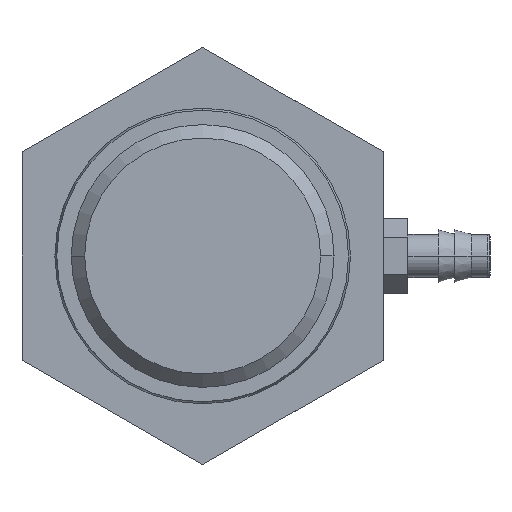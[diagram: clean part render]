
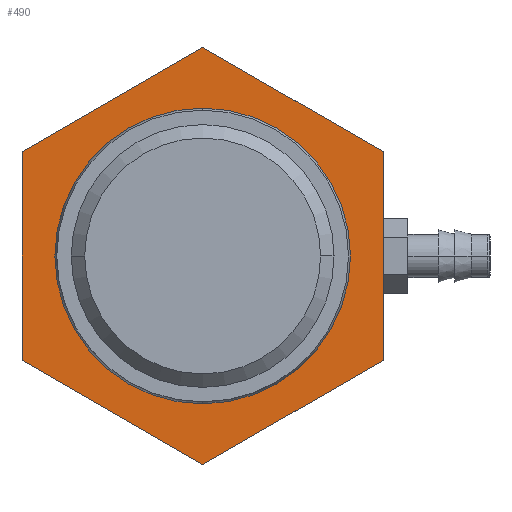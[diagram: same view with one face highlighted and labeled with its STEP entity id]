
A CAD part, left-side view. The second image highlights one B-rep face of the part: STEP entity #490.
In plain terms, the highlighted planar face has unit normal (-1, 0, 0).
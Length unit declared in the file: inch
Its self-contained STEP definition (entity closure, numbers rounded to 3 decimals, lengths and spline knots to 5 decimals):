
#203=DIRECTION('',(0.,0.866,-0.5));
#204=VECTOR('',#203,0.79386);
#205=CARTESIAN_POINT('',(-3.25,0.,0.79386));
#206=LINE('',#205,#204);
#207=DIRECTION('',(0.,0.866,0.5));
#208=VECTOR('',#207,0.79386);
#209=CARTESIAN_POINT('',(-3.25,-0.6875,0.39693));
#210=LINE('',#209,#208);
#211=DIRECTION('',(0.,0.,1.));
#212=VECTOR('',#211,0.79386);
#213=CARTESIAN_POINT('',(-3.25,-0.6875,-0.39693));
#214=LINE('',#213,#212);
#215=DIRECTION('',(0.,-0.866,0.5));
#216=VECTOR('',#215,0.79386);
#217=CARTESIAN_POINT('',(-3.25,0.,-0.79386));
#218=LINE('',#217,#216);
#219=DIRECTION('',(0.,-0.866,-0.5));
#220=VECTOR('',#219,0.79386);
#221=CARTESIAN_POINT('',(-3.25,0.6875,-0.39693));
#222=LINE('',#221,#220);
#223=DIRECTION('',(0.,0.,-1.));
#224=VECTOR('',#223,0.79386);
#225=CARTESIAN_POINT('',(-3.25,0.6875,0.39693));
#226=LINE('',#225,#224);
#227=CARTESIAN_POINT('',(-3.25,0.,0.));
#228=DIRECTION('',(1.,0.,0.));
#229=DIRECTION('',(0.,1.,0.));
#230=AXIS2_PLACEMENT_3D('',#227,#228,#229);
#232=CARTESIAN_POINT('',(-3.25,0.,0.));
#233=DIRECTION('',(1.,0.,0.));
#234=DIRECTION('',(0.,-1.,0.));
#235=AXIS2_PLACEMENT_3D('',#232,#233,#234);
#405=CARTESIAN_POINT('',(-3.25,0.,0.79386));
#406=CARTESIAN_POINT('',(-3.25,0.6875,0.39693));
#407=VERTEX_POINT('',#405);
#408=VERTEX_POINT('',#406);
#413=CARTESIAN_POINT('',(-3.25,0.6875,-0.39693));
#414=VERTEX_POINT('',#413);
#415=CARTESIAN_POINT('',(-3.25,-0.6875,0.39693));
#416=VERTEX_POINT('',#415);
#419=CARTESIAN_POINT('',(-3.25,0.,-0.79386));
#420=VERTEX_POINT('',#419);
#421=CARTESIAN_POINT('',(-3.25,-0.6875,-0.39693));
#422=VERTEX_POINT('',#421);
#429=CARTESIAN_POINT('',(-3.25,-0.475,0.));
#431=VERTEX_POINT('',#429);
#433=CARTESIAN_POINT('',(-3.25,0.475,0.));
#435=VERTEX_POINT('',#433);
#465=CARTESIAN_POINT('',(-3.25,0.,0.));
#466=DIRECTION('',(-1.,0.,0.));
#467=DIRECTION('',(0.,0.,1.));
#468=AXIS2_PLACEMENT_3D('',#465,#466,#467);
#469=PLANE('',#468);
#471=ORIENTED_EDGE('',*,*,#470,.F.);
#473=ORIENTED_EDGE('',*,*,#472,.F.);
#475=ORIENTED_EDGE('',*,*,#474,.F.);
#477=ORIENTED_EDGE('',*,*,#476,.F.);
#479=ORIENTED_EDGE('',*,*,#478,.F.);
#481=ORIENTED_EDGE('',*,*,#480,.F.);
#482=EDGE_LOOP('',(#471,#473,#475,#477,#479,#481));
#483=FACE_OUTER_BOUND('',#482,.F.);
#485=ORIENTED_EDGE('',*,*,#484,.F.);
#487=ORIENTED_EDGE('',*,*,#486,.F.);
#488=EDGE_LOOP('',(#485,#487));
#489=FACE_BOUND('',#488,.F.);
#231=CIRCLE('',#230,0.475);
#236=CIRCLE('',#235,0.475);
#470=EDGE_CURVE('',#407,#408,#206,.T.);
#472=EDGE_CURVE('',#416,#407,#210,.T.);
#474=EDGE_CURVE('',#422,#416,#214,.T.);
#476=EDGE_CURVE('',#420,#422,#218,.T.);
#478=EDGE_CURVE('',#414,#420,#222,.T.);
#480=EDGE_CURVE('',#408,#414,#226,.T.);
#484=EDGE_CURVE('',#435,#431,#231,.T.);
#486=EDGE_CURVE('',#431,#435,#236,.T.);
#490=ADVANCED_FACE('',(#483,#489),#469,.T.);
